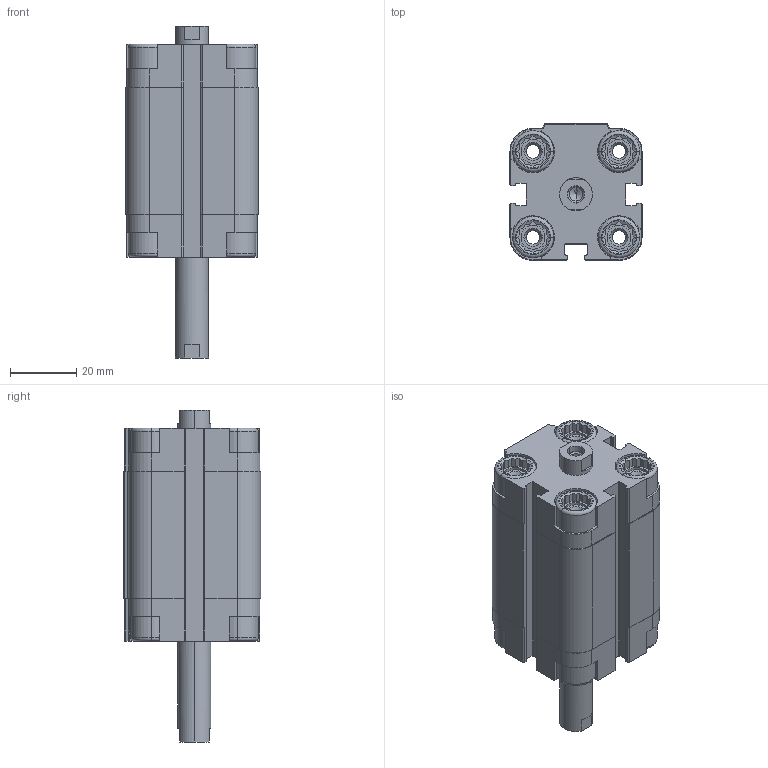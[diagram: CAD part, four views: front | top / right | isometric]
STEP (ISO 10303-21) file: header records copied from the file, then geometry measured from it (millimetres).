
FILE_DESCRIPTION (( 'STEP AP203' ), '1' );
FILE_NAME ('CDVU25-25F-P.STEP', '2020-07-24T18:09:26', ( '' ), ( '' ), 'SwSTEP 2.0', 'SolidWorks 2019', '' );
FILE_SCHEMA (( 'CONFIG_CONTROL_DESIGN' ));
Length unit declared in the file: millimetre
Products named in the file (1): CDVU25-25F-P
Bounding box: 40 x 41.5 x 100.5 mm (x, y, z)
Volume: 77202.5 mm3; surface area: 32073.3 mm2
Topology: 2 solids, 2 shells, 596 faces, 1574 edges, 1016 vertices
Faces by surface type: plane 356, cylinder 176, cone 48, torus 16
Entity records: 18577 total; most frequent: CARTESIAN_POINT 3755, ORIENTED_EDGE 3132, DIRECTION 3000, EDGE_CURVE 1566, AXIS2_PLACEMENT_3D 1029, VERTEX_POINT 1016, VECTOR 942, LINE 942
